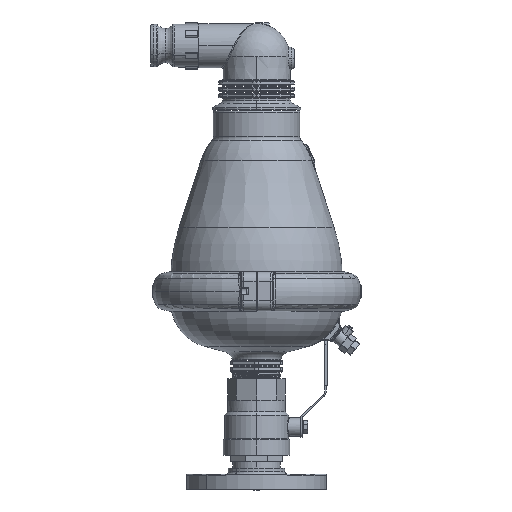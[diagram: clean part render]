
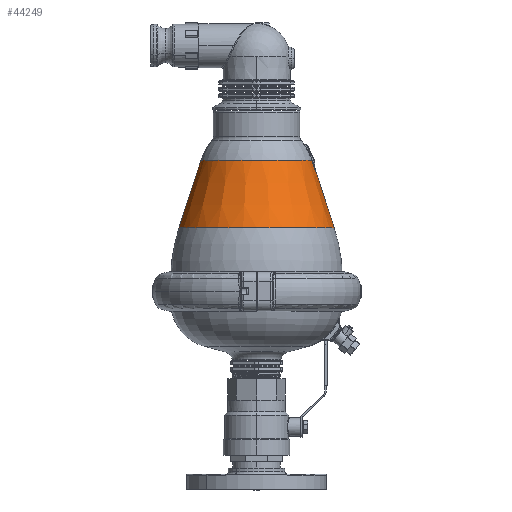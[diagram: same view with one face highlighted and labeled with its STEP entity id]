
A CAD part, top view. The second image highlights one B-rep face of the part: STEP entity #44249.
In plain terms, the highlighted conical face has half-angle 18 degrees and reference radius 96.771 mm.
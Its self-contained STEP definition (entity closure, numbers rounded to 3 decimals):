
#1909 = CARTESIAN_POINT ( 'NONE',  ( 72.616, 279.038, 10.349 ) ) ;
#4282 = VERTEX_POINT ( 'NONE', #23527 ) ;
#4488 = CARTESIAN_POINT ( 'NONE',  ( 73.23, 279.406, 0.776 ) ) ;
#5653 = CARTESIAN_POINT ( 'NONE',  ( 70.595, 284.964, 10.855 ) ) ;
#6751 = EDGE_CURVE ( 'NONE', #10717, #22231, #49522, .T. ) ;
#7152 = DIRECTION ( 'NONE',  ( -1., 0., 0. ) ) ;
#7583 = CARTESIAN_POINT ( 'NONE',  ( 73.23, 279.406, 0. ) ) ;
#8098 = CIRCLE ( 'NONE', #39111, 69.348 ) ;
#8109 = CARTESIAN_POINT ( 'NONE',  ( 73.235, 279.354, 1.547 ) ) ;
#8336 = EDGE_CURVE ( 'NONE', #35404, #10717, #8098, .T. ) ;
#9385 = ORIENTED_EDGE ( 'NONE', *, *, #35372, .F. ) ;
#9423 = CARTESIAN_POINT ( 'NONE',  ( 73.263, 277.357, 9.652 ) ) ;
#9863 = DIRECTION ( 'NONE',  ( 0., -1., 0. ) ) ;
#10498 = CARTESIAN_POINT ( 'NONE',  ( -96.771, 206.955, 0. ) ) ;
#10717 = VERTEX_POINT ( 'NONE', #50345 ) ;
#11736 = CARTESIAN_POINT ( 'NONE',  ( 73.437, 277.121, 8.886 ) ) ;
#13577 = CARTESIAN_POINT ( 'NONE',  ( 73.438, 277.057, 9.056 ) ) ;
#14041 = CARTESIAN_POINT ( 'NONE',  ( 73.437, 277.121, 8.886 ) ) ;
#16296 = CARTESIAN_POINT ( 'NONE',  ( 0., 291.355, 0. ) ) ;
#16428 = ORIENTED_EDGE ( 'NONE', *, *, #6751, .T. ) ;
#18022 = CARTESIAN_POINT ( 'NONE',  ( 73.322, 277.222, 9.542 ) ) ;
#18319 = CARTESIAN_POINT ( 'NONE',  ( 72.384, 279.685, 10.489 ) ) ;
#19158 = EDGE_CURVE ( 'NONE', #4282, #53927, #28953, .T. ) ;
#19241 = ORIENTED_EDGE ( 'NONE', *, *, #19158, .T. ) ;
#19259 = CARTESIAN_POINT ( 'NONE',  ( 70.803, 284.331, 10.856 ) ) ;
#20515 = EDGE_LOOP ( 'NONE', ( #48636, #19241, #33936, #30701, #37377, #16428, #9385 ) ) ;
#21426 = CARTESIAN_POINT ( 'NONE',  ( 73.255, 279.135, 3.075 ) ) ;
#21561 = VERTEX_POINT ( 'NONE', #38730 ) ;
#21629 = VERTEX_POINT ( 'NONE', #42877 ) ;
#22231 = VERTEX_POINT ( 'NONE', #23589 ) ;
#22467 = CARTESIAN_POINT ( 'NONE',  ( 73.147, 277.634, 9.839 ) ) ;
#22650 = DIRECTION ( 'NONE',  ( -1., 0., 0. ) ) ;
#22748 = CARTESIAN_POINT ( 'NONE',  ( 72.97, 278.088, 10.05 ) ) ;
#23527 = CARTESIAN_POINT ( 'NONE',  ( 73.23, 279.406, 0. ) ) ;
#23589 = CARTESIAN_POINT ( 'NONE',  ( -96.771, 206.955, 0. ) ) ;
#23716 = B_SPLINE_CURVE_WITH_KNOTS ( 'NONE', 3,
 ( #38036, #31617, #13577, #27178, #34663, #18022, #9423, #22467, #26076, #22748, #39670, #47425, #1909, #18319, #35500, #52388, #26606, #43820, #31049, #47969 ),
 .UNSPECIFIED., .F., .F.,
 ( 4, 2, 2, 2, 2, 2, 2, 2, 2, 4 ),
 ( 0., 0., 0.001, 0.001, 0.002, 0.002, 0.003, 0.004, 0.006, 0.009 ),
 .UNSPECIFIED. ) ;
#23898 = CARTESIAN_POINT ( 'NONE',  ( 0., 206.955, 0. ) ) ;
#24716 = DIRECTION ( 'NONE',  ( -1., 0., 0. ) ) ;
#26076 = CARTESIAN_POINT ( 'NONE',  ( 73.088, 277.782, 9.915 ) ) ;
#26606 = CARTESIAN_POINT ( 'NONE',  ( 71.695, 281.662, 10.756 ) ) ;
#27029 = CARTESIAN_POINT ( 'NONE',  ( 70.178, 286.231, 10.855 ) ) ;
#27178 = CARTESIAN_POINT ( 'NONE',  ( 73.414, 277.062, 9.232 ) ) ;
#28953 = B_SPLINE_CURVE_WITH_KNOTS ( 'NONE', 3,
 ( #7583, #4488, #8109, #41979, #21426, #54139, #37544, #38091, #50816, #11736 ),
 .UNSPECIFIED., .F., .F.,
 ( 4, 2, 2, 2, 4 ),
 ( 0.009, 0.012, 0.013, 0.014, 0.019 ),
 .UNSPECIFIED. ) ;
#30491 = DIRECTION ( 'NONE',  ( 0.309, -0.951, 0. ) ) ;
#30701 = ORIENTED_EDGE ( 'NONE', *, *, #45843, .T. ) ;
#30760 = DIRECTION ( 'NONE',  ( -0.309, -0.951, 0. ) ) ;
#31049 = CARTESIAN_POINT ( 'NONE',  ( 71.023, 283.661, 10.856 ) ) ;
#31617 = CARTESIAN_POINT ( 'NONE',  ( 73.441, 277.08, 8.966 ) ) ;
#32345 = CARTESIAN_POINT ( 'NONE',  ( 68.494, 291.355, 10.851 ) ) ;
#33501 = VECTOR ( 'NONE', #30491, 1000. ) ;
#33523 = B_SPLINE_CURVE_WITH_KNOTS ( 'NONE', 3,
 ( #19259, #5653, #53059, #27029, #39232, #44482, #43945 ),
 .UNSPECIFIED., .F., .F.,
 ( 4, 3, 4 ),
 ( 0., 0.002, 0.007 ),
 .UNSPECIFIED. ) ;
#33936 = ORIENTED_EDGE ( 'NONE', *, *, #44559, .T. ) ;
#34663 = CARTESIAN_POINT ( 'NONE',  ( 73.393, 277.091, 9.317 ) ) ;
#34930 = LINE ( 'NONE', #44063, #33501 ) ;
#35372 = EDGE_CURVE ( 'NONE', #21629, #22231, #53410, .T. ) ;
#35404 = VERTEX_POINT ( 'NONE', #32345 ) ;
#35500 = CARTESIAN_POINT ( 'NONE',  ( 72.268, 280.012, 10.546 ) ) ;
#36611 = AXIS2_PLACEMENT_3D ( 'NONE', #51460, #9863, #22650 ) ;
#37377 = ORIENTED_EDGE ( 'NONE', *, *, #8336, .T. ) ;
#37544 = CARTESIAN_POINT ( 'NONE',  ( 73.277, 278.894, 4.212 ) ) ;
#38036 = CARTESIAN_POINT ( 'NONE',  ( 73.437, 277.121, 8.886 ) ) ;
#38091 = CARTESIAN_POINT ( 'NONE',  ( 73.322, 278.397, 6.079 ) ) ;
#38730 = CARTESIAN_POINT ( 'NONE',  ( 70.803, 284.331, 10.856 ) ) ;
#39111 = AXIS2_PLACEMENT_3D ( 'NONE', #16296, #45708, #7152 ) ;
#39232 = CARTESIAN_POINT ( 'NONE',  ( 69.617, 287.939, 10.854 ) ) ;
#39670 = CARTESIAN_POINT ( 'NONE',  ( 72.91, 278.245, 10.109 ) ) ;
#40560 = DIRECTION ( 'NONE',  ( 0., -1., 0. ) ) ;
#41979 = CARTESIAN_POINT ( 'NONE',  ( 73.249, 279.199, 2.694 ) ) ;
#42877 = CARTESIAN_POINT ( 'NONE',  ( 96.771, 206.955, 0. ) ) ;
#43820 = CARTESIAN_POINT ( 'NONE',  ( 71.245, 282.994, 10.838 ) ) ;
#43945 = CARTESIAN_POINT ( 'NONE',  ( 68.494, 291.355, 10.851 ) ) ;
#44063 = CARTESIAN_POINT ( 'NONE',  ( 96.771, 206.955, 0. ) ) ;
#44249 = ADVANCED_FACE ( 'NONE', ( #45517 ), #52588, .T. ) ;
#44482 = CARTESIAN_POINT ( 'NONE',  ( 69.055, 289.647, 10.852 ) ) ;
#44559 = EDGE_CURVE ( 'NONE', #53927, #21561, #23716, .T. ) ;
#45517 = FACE_OUTER_BOUND ( 'NONE', #20515, .T. ) ;
#45708 = DIRECTION ( 'NONE',  ( 0., -1., 0. ) ) ;
#45843 = EDGE_CURVE ( 'NONE', #21561, #35404, #33523, .T. ) ;
#47425 = CARTESIAN_POINT ( 'NONE',  ( 72.733, 278.718, 10.267 ) ) ;
#47856 = VECTOR ( 'NONE', #30760, 1000. ) ;
#47969 = CARTESIAN_POINT ( 'NONE',  ( 70.803, 284.331, 10.856 ) ) ;
#48636 = ORIENTED_EDGE ( 'NONE', *, *, #53145, .F. ) ;
#49522 = LINE ( 'NONE', #10498, #47856 ) ;
#50345 = CARTESIAN_POINT ( 'NONE',  ( -69.348, 291.355, 0. ) ) ;
#50816 = CARTESIAN_POINT ( 'NONE',  ( 73.373, 277.826, 7.507 ) ) ;
#51460 = CARTESIAN_POINT ( 'NONE',  ( 0., 206.955, 0. ) ) ;
#52388 = CARTESIAN_POINT ( 'NONE',  ( 71.923, 280.997, 10.692 ) ) ;
#52588 = CONICAL_SURFACE ( 'NONE', #53455, 96.771, 0.314 ) ;
#53059 = CARTESIAN_POINT ( 'NONE',  ( 70.386, 285.598, 10.855 ) ) ;
#53145 = EDGE_CURVE ( 'NONE', #4282, #21629, #34930, .T. ) ;
#53410 = CIRCLE ( 'NONE', #36611, 96.771 ) ;
#53455 = AXIS2_PLACEMENT_3D ( 'NONE', #23898, #40560, #24716 ) ;
#53927 = VERTEX_POINT ( 'NONE', #14041 ) ;
#54139 = CARTESIAN_POINT ( 'NONE',  ( 73.269, 278.983, 3.834 ) ) ;
